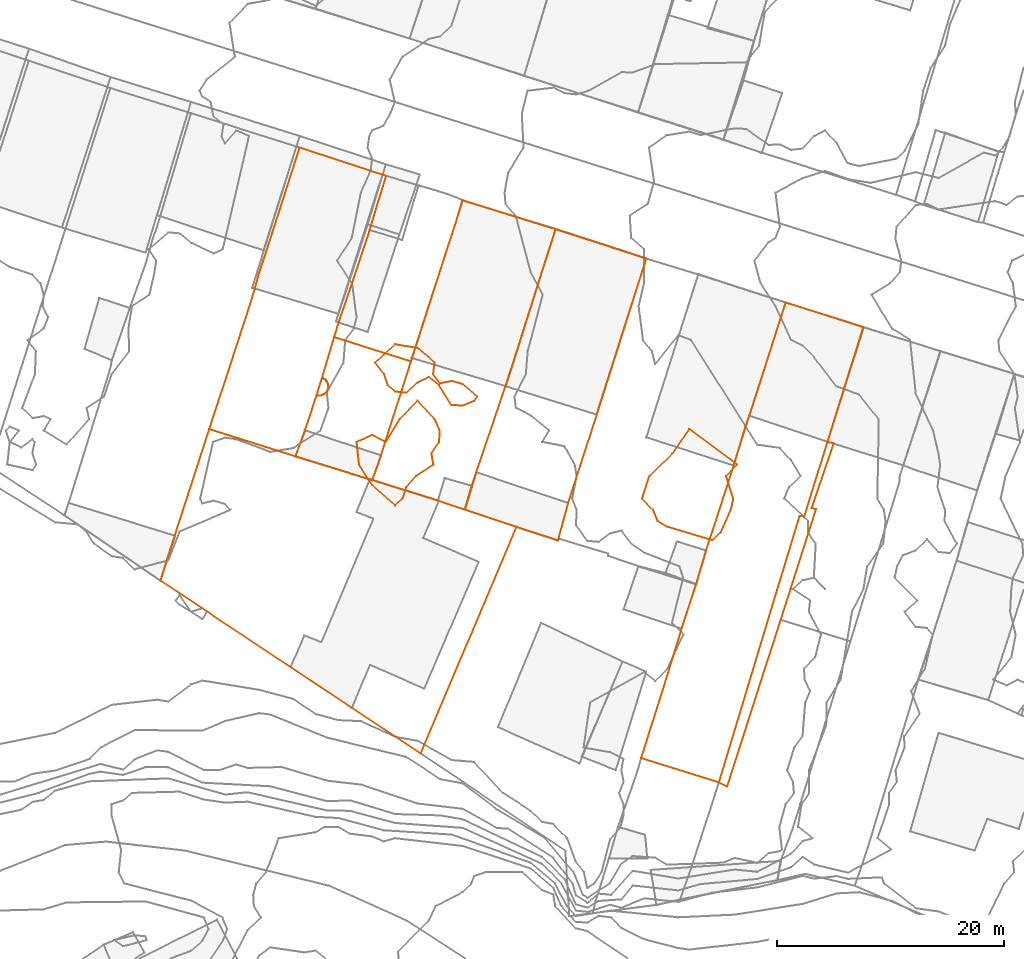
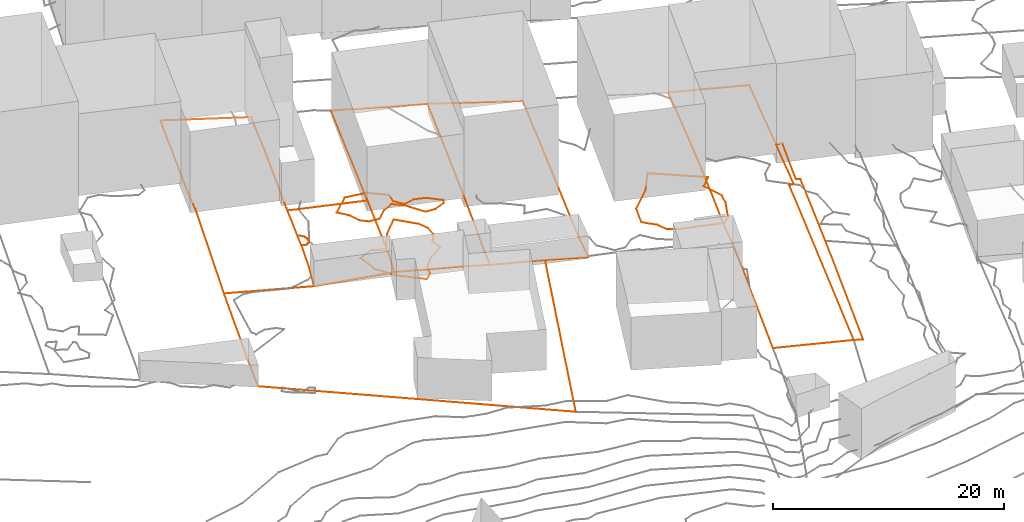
# Not in any storey, part 196 of 419: 11 proxies.
"""IFC2X3 model written with IfcOpenShell, lengths in metres."""

from ifc_helpers import new_model, entity, si_unit, frame, origin_with_axes, place, context, subcontext, project, element, save


model = new_model("IFC2X3")

# Units and contexts
model_context = context("Model", 3, precision=1e-05, world=origin_with_axes())
body_context = subcontext(model_context, "Body", "Model", "MODEL_VIEW")
ifc_project = project(units=[si_unit("AREAUNIT", "SQUARE_METRE"), si_unit("LENGTHUNIT", "METRE")], contexts=[model_context])

# Proxies
proxy_1_placement = place(None, frame((887.7020204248, 114.0176909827, 74.1407711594), z_axis=(0.0, 0.0, 1.0), x_axis=(1.0, 0.0, 0.0)))
element("IfcBuildingElementProxy", 1, at=proxy_1_placement, Name="Cadastre 195", ObjectType="NOTDEFINED", context=body_context, shape_type="GeometricCurveSet", body=[
    entity("IfcGeometricCurveSet", [entity("IfcPolyline", [entity("IfcCartesianPoint", [7.61, -2.4100000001, -0.4403914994]), entity("IfcCartesianPoint", [0.0, 0.0, 0.0]), entity("IfcCartesianPoint", [3.74, 11.4299999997, 0.6537311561]), entity("IfcCartesianPoint", [4.4, 13.7800000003, 0.6581865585]), entity("IfcCartesianPoint", [4.75, 14.8200000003, 0.5488430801]), entity("IfcCartesianPoint", [7.98, 24.8600000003, 0.4240027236]), entity("IfcCartesianPoint", [15.61, 22.3600000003, -0.3740278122]), entity("IfcCartesianPoint", [14.16, 17.5700000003, -0.3582838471]), entity("IfcCartesianPoint", [14.02, 17.0800000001, -0.361191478]), entity("IfcCartesianPoint", [11.36, 9.2199999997, -0.0126517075]), entity("IfcCartesianPoint", [11.15, 8.5099999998, -0.0272011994]), entity("IfcCartesianPoint", [11.03, 8.1200000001, -0.0088591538]), entity("IfcCartesianPoint", [9.9500000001, 4.5300000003, -0.103242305]), entity("IfcCartesianPoint", [9.48, 3.0099999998, -0.0583533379]), entity("IfcCartesianPoint", [8.4400000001, -0.1399999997, -0.1217117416]), entity("IfcCartesianPoint", [7.61, -2.4100000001, -0.4403914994])])]),
])
proxy_2_placement = place(None, frame((897.1820204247, 117.0276909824, 74.0824178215), z_axis=(0.0, 0.0, 1.0), x_axis=(1.0, 0.0, 0.0)))
element("IfcBuildingElementProxy", 2, at=proxy_2_placement, Name="Cadastre 196", ObjectType="NOTDEFINED", context=body_context, shape_type="GeometricCurveSet", body=[
    entity("IfcGeometricCurveSet", [entity("IfcPolyline", [entity("IfcCartesianPoint", [0.0, 0.0, 0.0]), entity("IfcCartesianPoint", [0.4700000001, 1.5200000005, -0.0448889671]), entity("IfcCartesianPoint", [0.6000000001, 1.4700000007, -0.0657882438]), entity("IfcCartesianPoint", [0.7000000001, 1.4199999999, -0.0826526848]), entity("IfcCartesianPoint", [0.78, 1.3500000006, -0.0975211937]), entity("IfcCartesianPoint", [0.8600000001, 1.2700000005, -0.1096166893]), entity("IfcCartesianPoint", [0.92, 1.1800000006, -0.1192403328]), entity("IfcCartesianPoint", [0.9700000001, 1.0800000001, -0.1276200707]), entity("IfcCartesianPoint", [1.01, 0.9700000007, -0.1348158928]), entity("IfcCartesianPoint", [1.03, 0.8700000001, -0.1394158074]), entity("IfcCartesianPoint", [1.04, 0.75, -0.1433917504]), entity("IfcCartesianPoint", [1.03, 0.6400000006, -0.1452117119]), entity("IfcCartesianPoint", [1.01, 0.5300000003, -0.1462556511]), entity("IfcCartesianPoint", [0.9700000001, 0.4300000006, -0.145559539]), entity("IfcCartesianPoint", [0.92, 0.3300000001, -0.1428396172]), entity("IfcCartesianPoint", [0.8600000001, 0.2400000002, -0.1367260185]), entity("IfcCartesianPoint", [0.78, 0.1600000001, -0.1282783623]), entity("IfcCartesianPoint", [0.6800000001, 0.0899999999, -0.1173526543]), entity("IfcCartesianPoint", [0.5800000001, 0.04, -0.1061828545]), entity("IfcCartesianPoint", [0.4800000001, -0.0099999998, -0.0944130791]), entity("IfcCartesianPoint", [0.37, -0.0299999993, -0.0778571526]), entity("IfcCartesianPoint", [0.26, -0.04, -0.0539022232]), entity("IfcCartesianPoint", [0.15, -0.0299999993, -0.030777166]), entity("IfcCartesianPoint", [0.0, 0.0, 0.0])])]),
])
proxy_3_placement = place(None, frame((883.3920204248, 100.6376909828, 73.938718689), z_axis=(0.0, 0.0, 1.0), x_axis=(1.0, 0.0, 0.0)))
element("IfcBuildingElementProxy", 3, at=proxy_3_placement, Name="Cadastre 197", ObjectType="NOTDEFINED", context=body_context, shape_type="GeometricCurveSet", body=[
    entity("IfcGeometricCurveSet", [entity("IfcPolyline", [entity("IfcCartesianPoint", [22.97, -15.2599999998, -1.4911659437]), entity("IfcCartesianPoint", [0.0, 0.0, 0.0]), entity("IfcCartesianPoint", [1.25, 3.96, -0.0327185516]), entity("IfcCartesianPoint", [4.3099999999, 13.3799999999, 0.2020524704]), entity("IfcCartesianPoint", [11.9199999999, 10.9699999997, -0.2383390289]), entity("IfcCartesianPoint", [18.71, 8.8799999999, 0.1401937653]), entity("IfcCartesianPoint", [24.47, 7.0700000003, -0.1772937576]), entity("IfcCartesianPoint", [26.85, 6.2599999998, -0.3544699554]), entity("IfcCartesianPoint", [31.4299999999, 4.7299999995, -0.5167491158]), entity("IfcCartesianPoint", [22.97, -15.2599999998, -1.4911659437])])]),
])
proxy_4_placement = place(None, frame((895.3120204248, 111.6076909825, 73.70037966), z_axis=(0.0, 0.0, 1.0), x_axis=(1.0, 0.0, 0.0)))
element("IfcBuildingElementProxy", 4, at=proxy_4_placement, Name="Cadastre 198", ObjectType="NOTDEFINED", context=body_context, shape_type="GeometricCurveSet", body=[
    entity("IfcGeometricCurveSet", [entity("IfcPolyline", [entity("IfcCartesianPoint", [6.79, -2.0899999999, 0.3785327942]), entity("IfcCartesianPoint", [0.0, 0.0, 0.0]), entity("IfcCartesianPoint", [0.8300000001, 2.2700000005, 0.3186797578]), entity("IfcCartesianPoint", [1.87, 5.4199999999, 0.3820381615]), entity("IfcCartesianPoint", [2.02, 5.3900000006, 0.3512609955]), entity("IfcCartesianPoint", [2.13, 5.3799999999, 0.3281359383]), entity("IfcCartesianPoint", [2.24, 5.3900000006, 0.3041810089]), entity("IfcCartesianPoint", [2.3500000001, 5.4100000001, 0.2876250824]), entity("IfcCartesianPoint", [2.4500000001, 5.46, 0.275855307]), entity("IfcCartesianPoint", [2.55, 5.5099999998, 0.2646855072]), entity("IfcCartesianPoint", [2.65, 5.5800000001, 0.2537597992]), entity("IfcCartesianPoint", [2.7300000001, 5.6600000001, 0.2453121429]), entity("IfcCartesianPoint", [2.79, 5.75, 0.2391985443]), entity("IfcCartesianPoint", [2.8400000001, 5.8500000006, 0.2364786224]), entity("IfcCartesianPoint", [2.88, 5.9500000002, 0.2357825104]), entity("IfcCartesianPoint", [2.9, 6.0600000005, 0.2368264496]), entity("IfcCartesianPoint", [2.91, 6.1699999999, 0.2386464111]), entity("IfcCartesianPoint", [2.9, 6.29, 0.2426223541]), entity("IfcCartesianPoint", [2.88, 6.3900000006, 0.2472222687]), entity("IfcCartesianPoint", [2.8400000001, 6.5, 0.2544180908]), entity("IfcCartesianPoint", [2.79, 6.6000000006, 0.2627978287]), entity("IfcCartesianPoint", [2.7300000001, 6.6900000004, 0.2724214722]), entity("IfcCartesianPoint", [2.65, 6.7700000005, 0.2845169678]), entity("IfcCartesianPoint", [2.5700000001, 6.8399999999, 0.2993854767]), entity("IfcCartesianPoint", [2.4700000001, 6.8900000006, 0.3162499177]), entity("IfcCartesianPoint", [2.3400000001, 6.9400000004, 0.3371491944]), entity("IfcCartesianPoint", [3.42, 10.5300000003, 0.4315323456]), entity("IfcCartesianPoint", [10.2000000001, 8.3799999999, 0.4098620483]), entity("IfcCartesianPoint", [7.53, 0.04, 0.6958686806]), entity("IfcCartesianPoint", [6.79, -2.0899999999, 0.3785327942])])]),
])
proxy_5_placement = place(None, frame((902.1020204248, 109.5176909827, 74.0789124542), z_axis=(0.0, 0.0, 1.0), x_axis=(1.0, 0.0, 0.0)))
element("IfcBuildingElementProxy", 5, at=proxy_5_placement, Name="Cadastre 201", ObjectType="NOTDEFINED", context=body_context, shape_type="GeometricCurveSet", body=[
    entity("IfcGeometricCurveSet", [entity("IfcPolyline", [entity("IfcCartesianPoint", [8.14, -2.6200000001, -0.4946637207]), entity("IfcCartesianPoint", [5.76, -1.8099999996, -0.3174875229]), entity("IfcCartesianPoint", [0.0, 0.0, 0.0]), entity("IfcCartesianPoint", [0.74, 2.1299999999, 0.3173358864]), entity("IfcCartesianPoint", [3.41, 10.4699999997, 0.0313292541]), entity("IfcCartesianPoint", [3.5, 10.75, 0.0416848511]), entity("IfcCartesianPoint", [7.59, 23.46, -0.6366307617]), entity("IfcCartesianPoint", [7.95, 24.7199999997, -0.6934425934]), entity("IfcCartesianPoint", [16.17, 22.1399999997, -1.2860164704]), entity("IfcCartesianPoint", [11.76, 8.29, -0.9849783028]), entity("IfcCartesianPoint", [9.15, 0.6299999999, -0.5674632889]), entity("IfcCartesianPoint", [8.75, -0.5599999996, -0.5461115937]), entity("IfcCartesianPoint", [8.14, -2.6200000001, -0.4946637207])])]),
])
proxy_6_placement = place(None, frame((910.2420204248, 106.8976909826, 73.5842487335), z_axis=(0.0, 0.0, 1.0), x_axis=(1.0, 0.0, 0.0)))
element("IfcBuildingElementProxy", 6, at=proxy_6_placement, Name="Cadastre 202", ObjectType="NOTDEFINED", context=body_context, shape_type="GeometricCurveSet", body=[
    entity("IfcGeometricCurveSet", [entity("IfcPolyline", [entity("IfcCartesianPoint", [4.58, -1.5300000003, -0.1622791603]), entity("IfcCartesianPoint", [0.0, 0.0, 0.0]), entity("IfcCartesianPoint", [0.61, 2.0600000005, -0.0514478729]), entity("IfcCartesianPoint", [1.01, 3.25, -0.0727995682]), entity("IfcCartesianPoint", [3.62, 10.9100000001, -0.4903145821]), entity("IfcCartesianPoint", [8.03, 24.7599999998, -0.7913527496]), entity("IfcCartesianPoint", [16.05, 22.1799999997, -1.7344089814]), entity("IfcCartesianPoint", [11.67, 8.3799999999, -1.0316233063]), entity("IfcCartesianPoint", [9.15, 0.5899999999, -0.549646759]), entity("IfcCartesianPoint", [8.3, -2.5499999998, -0.4362995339]), entity("IfcCartesianPoint", [8.22, -2.71, -0.4215958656]), entity("IfcCartesianPoint", [4.58, -1.5300000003, -0.1622791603])])]),
])
proxy_7_placement = place(None, frame((932.7020204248, 82.8176909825, 72.3819912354), z_axis=(0.0, 0.0, 1.0), x_axis=(1.0, 0.0, 0.0)))
element("IfcBuildingElementProxy", 7, at=proxy_7_placement, Name="Cadastre 206", ObjectType="NOTDEFINED", context=body_context, shape_type="GeometricCurveSet", body=[
    entity("IfcGeometricCurveSet", [entity("IfcPolyline", [entity("IfcCartesianPoint", [0.0, 0.0, 0.0]), entity("IfcCartesianPoint", [7.12, 23.54, -0.3608228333]), entity("IfcCartesianPoint", [7.54, 23.4800000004, -0.3933913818]), entity("IfcCartesianPoint", [9.5700000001, 30.0300000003, -0.8986504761]), entity("IfcCartesianPoint", [10.15, 29.9800000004, -0.9159101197]), entity("IfcCartesianPoint", [8.2000000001, 24.2400000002, -0.5739003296]), entity("IfcCartesianPoint", [8.5800000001, 24.1299999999, -0.5962025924]), entity("IfcCartesianPoint", [5.4500000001, 14.3600000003, -0.1373283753]), entity("IfcCartesianPoint", [0.73, -0.3599999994, 0.0214918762]), entity("IfcCartesianPoint", [0.0, 0.0, 0.0])])]),
])
proxy_8_placement = place(None, frame((925.8420204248, 84.9676909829, 72.6167479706), z_axis=(0.0, 0.0, 1.0), x_axis=(1.0, 0.0, 0.0)))
element("IfcBuildingElementProxy", 8, at=proxy_8_placement, Name="Cadastre 207", ObjectType="NOTDEFINED", context=body_context, shape_type="GeometricCurveSet", body=[
    entity("IfcGeometricCurveSet", [entity("IfcPolyline", [entity("IfcCartesianPoint", [6.86, -2.1500000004, -0.2347567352]), entity("IfcCartesianPoint", [0.0, 0.0, 0.0]), entity("IfcCartesianPoint", [2.41, 7.6499999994, 0.0468505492]), entity("IfcCartesianPoint", [3.5700000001, 11.4500000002, 0.315692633]), entity("IfcCartesianPoint", [4.85, 15.3700000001, 0.062909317]), entity("IfcCartesianPoint", [5.72, 18.3099999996, -0.1922845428]), entity("IfcCartesianPoint", [8.17, 25.8499999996, -0.5337995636]), entity("IfcCartesianPoint", [9.1800000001, 29.1799999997, -0.6190492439]), entity("IfcCartesianPoint", [9.52, 30.1799999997, -0.7239494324]), entity("IfcCartesianPoint", [12.76, 40.2199999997, -1.8055404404]), entity("IfcCartesianPoint", [19.61, 38.0699999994, -2.1359471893]), entity("IfcCartesianPoint", [16.4300000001, 27.8799999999, -1.1334072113]), entity("IfcCartesianPoint", [14.4, 21.3300000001, -0.6281481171]), entity("IfcCartesianPoint", [13.98, 21.3899999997, -0.5955795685]), entity("IfcCartesianPoint", [6.86, -2.1500000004, -0.2347567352])])]),
])
proxy_9_placement = place(None, frame((902.3586904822, 119.8976909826, 74.0), z_axis=(0.0, 0.0, 1.0), x_axis=(1.0, 0.0, 0.0)))
element("IfcBuildingElementProxy", 9, at=proxy_9_placement, Name="Contour 74.0 m", ObjectType="NOTDEFINED", context=body_context, shape_type="GeometricCurveSet", body=[
    entity("IfcGeometricCurveSet", [entity("IfcPolyline", [entity("IfcCartesianPoint", [8.9757583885, -3.0, 0.0]), entity("IfcCartesianPoint", [8.7333299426, -3.3809627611, 0.0]), entity("IfcCartesianPoint", [7.7333299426, -3.799987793, 0.0]), entity("IfcCartesianPoint", [6.7333299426, -3.7500238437, 0.0]), entity("IfcCartesianPoint", [5.6221999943, -2.0, 0.0]), entity("IfcCartesianPoint", [4.7333299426, -1.2727146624, 0.0]), entity("IfcCartesianPoint", [3.7333299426, -1.7500238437, 0.0]), entity("IfcCartesianPoint", [2.7333299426, -2.666666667, 0.0]), entity("IfcCartesianPoint", [1.7333299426, -2.5555649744, 0.0]), entity("IfcCartesianPoint", [1.1083061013, -2.0, 0.0]), entity("IfcCartesianPoint", [0.7888972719, -1.0, 0.0]), entity("IfcCartesianPoint", [0.0, 0.0, 0.0]), entity("IfcCartesianPoint", [1.7333299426, 1.6153755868, 0.0]), entity("IfcCartesianPoint", [3.7333299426, 1.2857220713, 0.0]), entity("IfcCartesianPoint", [5.2596520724, 0.0, 0.0]), entity("IfcCartesianPoint", [5.1083061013, -1.0, 0.0]), entity("IfcCartesianPoint", [5.7333299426, -1.8333121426, 0.0]), entity("IfcCartesianPoint", [6.7333299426, -1.6190372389, 0.0]), entity("IfcCartesianPoint", [7.7333299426, -1.9062537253, 0.0]), entity("IfcCartesianPoint", [8.9757583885, -3.0, 0.0])])]),
])
proxy_10_placement = place(None, frame((900.7073960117, 112.8976909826, 74.0), z_axis=(0.0, 0.0, 1.0), x_axis=(1.0, 0.0, 0.0)))
element("IfcBuildingElementProxy", 10, at=proxy_10_placement, Name="Contour 74.0 m", ObjectType="NOTDEFINED", context=body_context, shape_type="GeometricCurveSet", body=[
    entity("IfcGeometricCurveSet", [entity("IfcPolyline", [entity("IfcCartesianPoint", [4.0721124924, -5.0, 0.0]), entity("IfcCartesianPoint", [3.3846244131, -5.6111134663, 0.0]), entity("IfcCartesianPoint", [1.3846244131, -3.833340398, 0.0]), entity("IfcCartesianPoint", [0.2267381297, -2.0, 0.0]), entity("IfcCartesianPoint", [0.0, 0.0, 0.0]), entity("IfcCartesianPoint", [1.3846244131, 0.5999999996, 0.0]), entity("IfcCartesianPoint", [2.5721214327, 0.0, 0.0]), entity("IfcCartesianPoint", [3.8131802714, 2.0, 0.0]), entity("IfcCartesianPoint", [5.3846244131, 3.6250238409, 0.0]), entity("IfcCartesianPoint", [6.910946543, 2.0, 0.0]), entity("IfcCartesianPoint", [7.3475800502, 1.0, 0.0]), entity("IfcCartesianPoint", [7.2937279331, 0.0, 0.0]), entity("IfcCartesianPoint", [6.6199264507, -1.0, 0.0]), entity("IfcCartesianPoint", [6.7846396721, -2.0, 0.0]), entity("IfcCartesianPoint", [5.2734944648, -3.0, 0.0]), entity("IfcCartesianPoint", [4.3846244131, -4.0000199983, 0.0]), entity("IfcCartesianPoint", [4.0721124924, -5.0, 0.0])])]),
])
proxy_11_placement = place(None, frame((925.9196098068, 107.8976909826, 72.0), z_axis=(0.0, 0.0, 1.0), x_axis=(1.0, 0.0, 0.0)))
element("IfcBuildingElementProxy", 11, at=proxy_11_placement, Name="Contour 72.0 m", ObjectType="NOTDEFINED", context=body_context, shape_type="GeometricCurveSet", body=[
    entity("IfcGeometricCurveSet", [entity("IfcPolyline", [entity("IfcCartesianPoint", [6.1724106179, -3.6842147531, 0.0]), entity("IfcCartesianPoint", [6.9371085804, -3.0, 0.0]), entity("IfcCartesianPoint", [7.8390603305, -1.0, 0.0]), entity("IfcCartesianPoint", [8.0547820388, 0.0, 0.0]), entity("IfcCartesianPoint", [7.4031753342, 2.0, 0.0]), entity("IfcCartesianPoint", [8.4031753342, 3.0, 0.0]), entity("IfcCartesianPoint", [4.1724106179, 6.1428519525, 0.0]), entity("IfcCartesianPoint", [2.7178399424, 4.0, 0.0]), entity("IfcCartesianPoint", [0.6460884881, 2.0, 0.0]), entity("IfcCartesianPoint", [0.0, 0.0, 0.0]), entity("IfcCartesianPoint", [0.9724157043, -1.0, 0.0]), entity("IfcCartesianPoint", [1.3792980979, -2.0, 0.0]), entity("IfcCartesianPoint", [2.1724106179, -2.4791703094, 0.0]), entity("IfcCartesianPoint", [6.1724106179, -3.6842147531, 0.0])])]),
])

save(model, "model.ifc")
